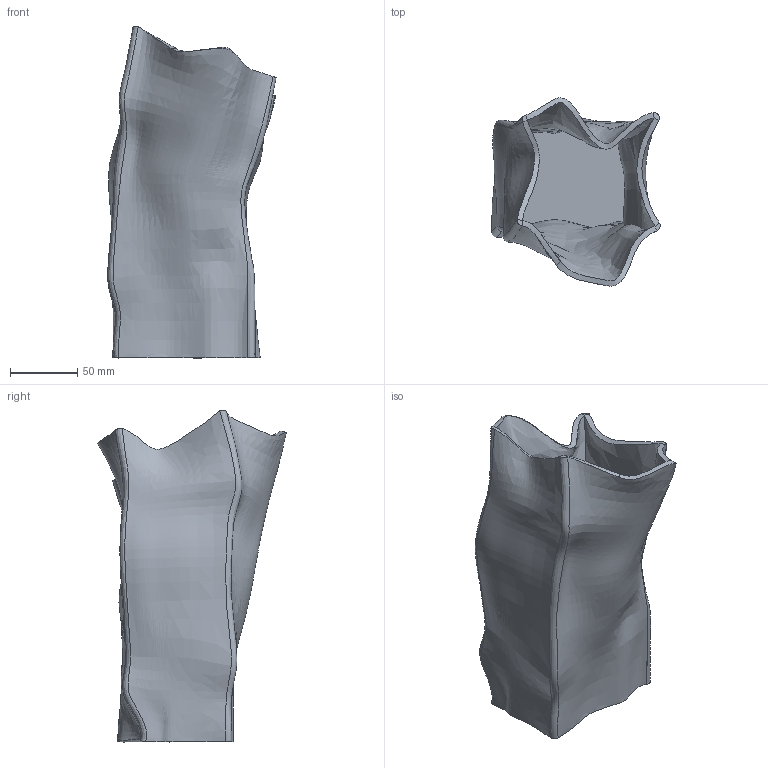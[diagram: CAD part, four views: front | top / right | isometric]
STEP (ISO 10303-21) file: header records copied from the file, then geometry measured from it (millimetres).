
FILE_DESCRIPTION(/* description */ (''),/* implementation_level */ '2;1');
FILE_NAME(/* name */ 'Kami Vase Mini',/* time_stamp */ '2023-10-24T13:54:11+02:00',/* author */ (''),/* organization */ (''),/* preprocessor_version */ 'ST-DEVELOPER v15',/* originating_system */ '',/* authorisation */ '');
FILE_SCHEMA (('AUTOMOTIVE_DESIGN'));
Length unit declared in the file: millimetre
Products named in the file (1): Document
Bounding box: 124.84 x 139.59 x 246.27 mm (x, y, z)
Volume: 334560.4 mm3; surface area: 177540.7 mm2
Topology: 2 solids, 2 shells, 32 faces, 70 edges, 41 vertices
Faces by surface type: bspline 24, plane 8
Entity records: 60767 total; most frequent: CARTESIAN_POINT 60290, ORIENTED_EDGE 140, EDGE_CURVE 70, B_SPLINE_CURVE_WITH_KNOTS 57, VERTEX_POINT 41, EDGE_LOOP 33, ADVANCED_FACE 32, FACE_OUTER_BOUND 32
